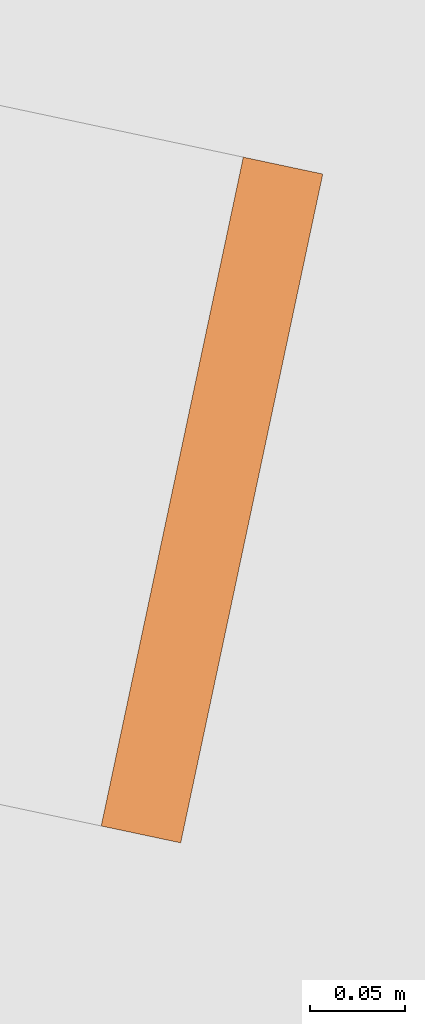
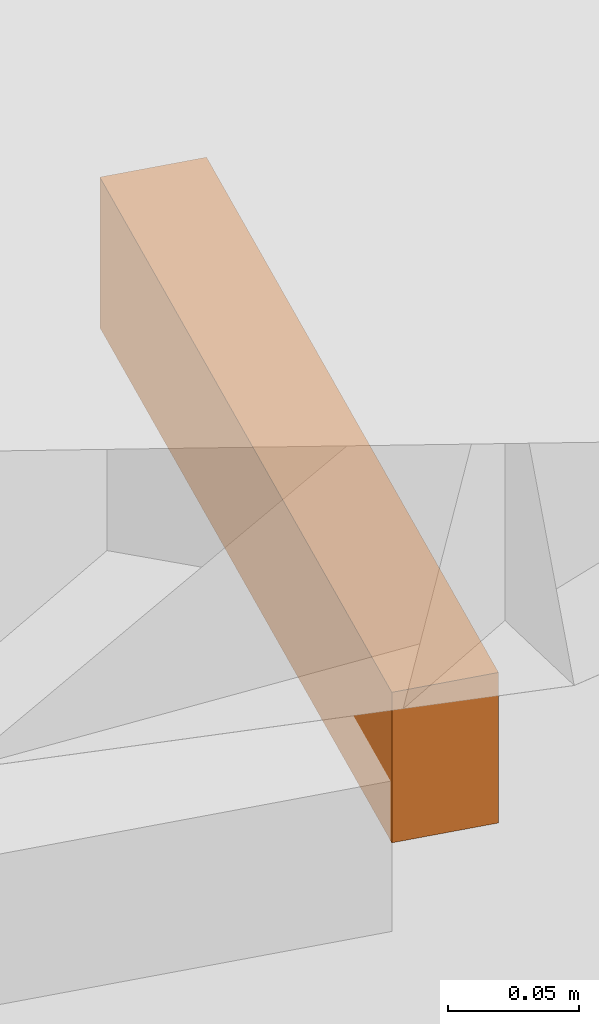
# Not in any storey, part 7 of 7: 1 proxy.
"""IFC4 model written with IfcOpenShell, lengths in metres."""

import ifcopenshell
import ifcopenshell.guid

model = None  # the IFC model being written
_history = None  # IfcOwnerHistory: only IFC2X3 demands one
_inside = {}  # id of a spatial element -> (the spatial element, [elements in it])
_under = {}  # id of a project, library or spatial element -> (it, [spatial elements below it])
_declared = {}  # id of a project -> (the project, [libraries it declares])
_typed = {}  # id of a type object -> (the type object, [elements of that type])
_made_of = {}  # id of a material, layer set ... -> (it, [elements and type objects made of it])


def new_model(schema):
    """Start an empty IFC model of exactly this schema.

    Asked for "IFC4X3", IfcOpenShell would pick the latest addendum, in which some entities
    have other attributes; the version numbers below select the first issue.
    IFC2X3 requires an IfcOwnerHistory on every rooted entity: one is made here for all.
    """
    global model, _history
    if schema == "IFC4X3":
        model = ifcopenshell.file(schema_version=(4, 3, 0, 0))
    else:
        model = ifcopenshell.file(schema=schema)
    _inside.clear()
    _under.clear()
    _declared.clear()
    _typed.clear()
    _made_of.clear()
    _history = None
    if model.schema == "IFC2X3":
        org = make("IfcOrganization", Name="unknown")
        user = make(
            "IfcPersonAndOrganization",
            ThePerson=make("IfcPerson", FamilyName="unknown"),
            TheOrganization=org,
        )
        app = make(
            "IfcApplication",
            ApplicationDeveloper=org,
            Version="unknown",
            ApplicationFullName="unknown",
            ApplicationIdentifier="unknown",
        )
        _history = make(
            "IfcOwnerHistory",
            OwningUser=user,
            OwningApplication=app,
            ChangeAction="ADDED",
            CreationDate=0,
        )
    return model


def make(cls, **values):
    """One entity of the class cls with the attributes given. An attribute that is None is left unset."""
    return model.create_entity(
        cls, **{name: value for name, value in values.items() if value is not None}
    )


def rooted(cls, **values):
    """An entity with a GlobalId (a new one), such as an element, a storey or a relation."""
    return make(cls, GlobalId=ifcopenshell.guid.new(), OwnerHistory=_history, **values)


def si_unit(unit_type, name, prefix=None):
    """IfcSIUnit, for example si_unit("LENGTHUNIT", "METRE", prefix="MILLI")."""
    return make("IfcSIUnit", UnitType=unit_type, Prefix=prefix, Name=name)


def assignment(units):
    """IfcUnitAssignment: the units of a project."""
    return None if units is None else make("IfcUnitAssignment", Units=units)


def point(xyz):
    """IfcCartesianPoint."""
    return None if xyz is None else make("IfcCartesianPoint", Coordinates=xyz)


def direction(xyz):
    """IfcDirection."""
    return None if xyz is None else make("IfcDirection", DirectionRatios=xyz)


def frame(location, z_axis=None, x_axis=None):
    """IfcAxis2Placement3D, a coordinate frame: its origin and axes. An axis left out is left unset."""
    return make(
        "IfcAxis2Placement3D",
        Location=point(location),
        Axis=direction(z_axis),
        RefDirection=direction(x_axis),
    )


def origin_with_axes():
    """The frame at (0, 0, 0) with the z axis (0, 0, 1) and the x axis (1, 0, 0) written out."""
    return frame((0.0, 0.0, 0.0), z_axis=(0.0, 0.0, 1.0), x_axis=(1.0, 0.0, 0.0))


def place(relative_to, where):
    """IfcLocalPlacement: puts the frame where relative to a parent placement (None: the world)."""
    return make(
        "IfcLocalPlacement", PlacementRelTo=relative_to, RelativePlacement=where
    )


def context(
    kind, dimensions, precision=None, world=None, true_north=None, identifier=None
):
    """IfcGeometricRepresentationContext, for example the 3D "Model" context."""
    return make(
        "IfcGeometricRepresentationContext",
        ContextIdentifier=identifier,
        ContextType=kind,
        CoordinateSpaceDimension=dimensions,
        Precision=precision,
        WorldCoordinateSystem=world,
        TrueNorth=true_north,
    )


def subcontext(parent, identifier, kind, view, scale=None):
    """IfcGeometricRepresentationSubContext, for example "Body" below "Model"."""
    return make(
        "IfcGeometricRepresentationSubContext",
        ContextIdentifier=identifier,
        ContextType=kind,
        ParentContext=parent,
        TargetScale=scale,
        TargetView=view,
    )


def project(units=None, contexts=None):
    """IfcProject with its units and contexts."""
    return rooted(
        "IfcProject",
        Name="project",
        RepresentationContexts=contexts,
        UnitsInContext=assignment(units),
    )


def spatial(cls, under=None, at=None, **own):
    """A site, building, storey or space (cls), placed at a placement, below another one or the project."""
    s = rooted(cls, ObjectPlacement=at, **own)
    if under is not None:
        _under.setdefault(under.id(), (under, []))[1].append(s)
    return s


def polyline(points):
    """IfcPolyline through the points."""
    return make("IfcPolyline", Points=[point(p) for p in points])


def outline(outer, holes=None, kind="AREA"):
    """IfcArbitraryClosedProfileDef: a profile drawn as a closed curve; with holes, ...WithVoids."""
    if holes is None:
        return make("IfcArbitraryClosedProfileDef", ProfileType=kind, OuterCurve=outer)
    return make(
        "IfcArbitraryProfileDefWithVoids",
        ProfileType=kind,
        OuterCurve=outer,
        InnerCurves=holes,
    )


def extrude(swept, where, along, depth):
    """IfcExtrudedAreaSolid: the profile swept, set in the frame where, extruded along a direction by depth."""
    return make(
        "IfcExtrudedAreaSolid",
        SweptArea=swept,
        Position=where,
        ExtrudedDirection=direction(along),
        Depth=depth,
    )


def shape(context_of_items, identifier, shape_type, items):
    """IfcShapeRepresentation: the items that make up one representation, for example the "Body"."""
    return make(
        "IfcShapeRepresentation",
        ContextOfItems=context_of_items,
        RepresentationIdentifier=identifier,
        RepresentationType=shape_type,
        Items=items,
    )


def material(Name=None, Category=None):
    """IfcMaterial."""
    return make("IfcMaterial", Name=Name, Category=Category)


def made_of(thing, what):
    """Note that an element or type object is made of a material, layer set ...; save() writes the relation."""
    if what is not None:
        _made_of.setdefault(what.id(), (what, []))[1].append(thing)
    return thing


def element(
    cls,
    number,
    at=None,
    inside=None,
    cuts=None,
    type_object=None,
    material=None,
    context=None,
    identifier="Body",
    shape_type=None,
    held_by="IfcProductDefinitionShape",
    body=None,
    shapes=None,
    **own,
):
    """One element of the class cls, such as IfcWall. Its Tag is "e" and its number.

    at: its placement. inside: the storey or other place that contains it. cuts: it is an
    opening in that element (IfcRelVoidsElement). A single representation is given by context,
    identifier, shape_type and body (its items); several are given by shapes. held_by: the class
    of the entity that holds the representations. save() writes the other relations.
    """
    e = rooted(cls, Tag="e%d" % number, ObjectPlacement=at, **own)
    if body is not None:
        shapes = [shape(context, identifier, shape_type, body)]
    if shapes is not None:
        e.Representation = make(held_by, Representations=shapes)
    if inside is not None:
        _inside.setdefault(inside.id(), (inside, []))[1].append(e)
    if cuts is not None:
        rooted(
            "IfcRelVoidsElement", RelatingBuildingElement=cuts, RelatedOpeningElement=e
        )
    if type_object is not None:
        _typed.setdefault(type_object.id(), (type_object, []))[1].append(e)
    return made_of(e, material)


def aggregate(whole, parts):
    """IfcRelAggregates: a whole, such as a stair, and the parts it consists of."""
    return rooted("IfcRelAggregates", RelatingObject=whole, RelatedObjects=parts)


def save(model, path):
    """Write the relations noted so far, then the file.

    IfcRelAggregates (storeys below a building ...), IfcRelContainedInSpatialStructure (elements
    in a storey), IfcRelDefinesByType, IfcRelAssociatesMaterial and IfcRelDeclares: one each for
    every whole, place, type object, material and project.
    """
    for whole, parts in _under.values():
        aggregate(whole, parts)
    for where, things in _inside.values():
        rooted(
            "IfcRelContainedInSpatialStructure",
            RelatedElements=things,
            RelatingStructure=where,
        )
    for kind, things in _typed.values():
        rooted("IfcRelDefinesByType", RelatedObjects=things, RelatingType=kind)
    for what, things in _made_of.values():
        rooted("IfcRelAssociatesMaterial", RelatedObjects=things, RelatingMaterial=what)
    for by, libraries in _declared.values():
        rooted("IfcRelDeclares", RelatingContext=by, RelatedDefinitions=libraries)
    model.write(path)


model = new_model("IFC4")

# Units and contexts
model_context = context("Model", 3, precision=1e-05, world=origin_with_axes(), true_north=direction((0.0, 1.0)))
body_context = subcontext(model_context, "Body", "Model", "MODEL_VIEW")
ifc_project = project(units=[si_unit("VOLUMEUNIT", "CUBIC_METRE"), si_unit("LENGTHUNIT", "METRE"), si_unit("AREAUNIT", "SQUARE_METRE")], contexts=[model_context])

# Site
site_placement = place(None, origin_with_axes())
site = spatial("IfcSite", under=ifc_project, at=site_placement, Name="Lares · Rua das Mercês · artigo 4771")

# Proxy
ifc_material = material(Name="Brita drenante", Category="stone")
proxy_placement = place(site_placement, frame((0.0, 0.0, 16.1747036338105), z_axis=(0.0, 0.0, 1.0), x_axis=(1.0, -1.03767253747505e-17, 0.0)))
element("IfcBuildingElementProxy", 1, at=proxy_placement, inside=site, material=ifc_material, Name="Limite north · vala drenante 41", ObjectType="INTERCEPTOR_SWALE", PredefinedType="USERDEFINED", context=body_context, shape_type="SweptSolid", body=[
    extrude(outline(polyline([(80.6677759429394, 6.9773433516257), (80.592965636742, 6.62520216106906), (80.5511164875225, 6.63409276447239), (80.6259267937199, 6.98623395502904), (80.6677759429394, 6.9773433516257)])), origin_with_axes(), (0.0, 0.0, 1.0), 0.07),
])

save(model, "model.ifc")
